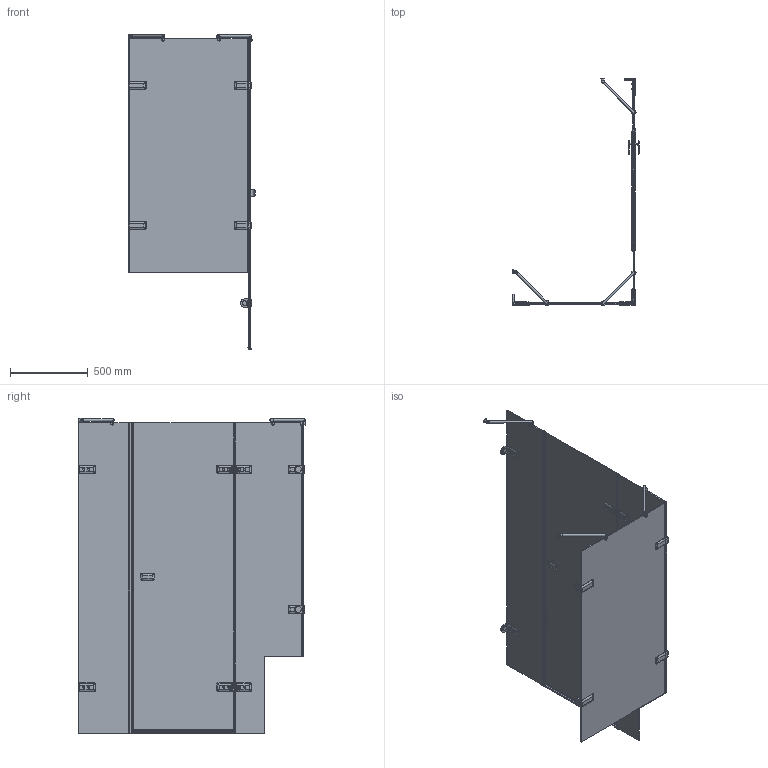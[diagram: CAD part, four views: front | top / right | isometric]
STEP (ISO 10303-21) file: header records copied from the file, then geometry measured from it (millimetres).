
FILE_DESCRIPTION(/* description */ (''),/* implementation_level */ '2;1');
FILE_NAME(/* name */ 'E:\Работа\Сергей\Душевые кабинки\! Работа\98\TREND RECTAN GK-864BV\TREND RECTAN GK-864BV левая модель\TREND RECTAN GK-864BV ЛЕВАЯ-3D.stp',/* time_stamp */ '2018-06-07T18:58:27+03:00',/* author */ ('PC'),/* organization */ (''),/* preprocessor_version */ 'ST-DEVELOPER v15.2',/* originating_system */ 'Autodesk Inventor 2014',/* authorisation */ '');
FILE_SCHEMA (('AUTOMOTIVE_DESIGN { 1 0 10303 214 3 1 1 }'));
Products named in the file (1): TREND RECTAN GK-864BV ЛЕВАЯ-3D
Bounding box: 812.5 x 1463 x 2031.5 mm (x, y, z)
Volume: 25054675.4 mm3; surface area: 8333895.2 mm2
Topology: 13 solids, 13 shells, 1675 faces, 4359 edges, 2689 vertices
Faces by surface type: plane 957, cylinder 396, bspline 204, torus 64, sphere 30, cone 24
Full cylindrical faces by diameter (mm): 6 x4, 9 x8, 12 x4, 13 x4, 15 x3, 20 x6, 26 x2, 40 x4
Entity records: 72221 total; most frequent: CARTESIAN_POINT 31240, ORIENTED_EDGE 8316, DIRECTION 7823, EDGE_CURVE 4158, VERTEX_POINT 2641, AXIS2_PLACEMENT_3D 2635, LINE 2553, VECTOR 2553
